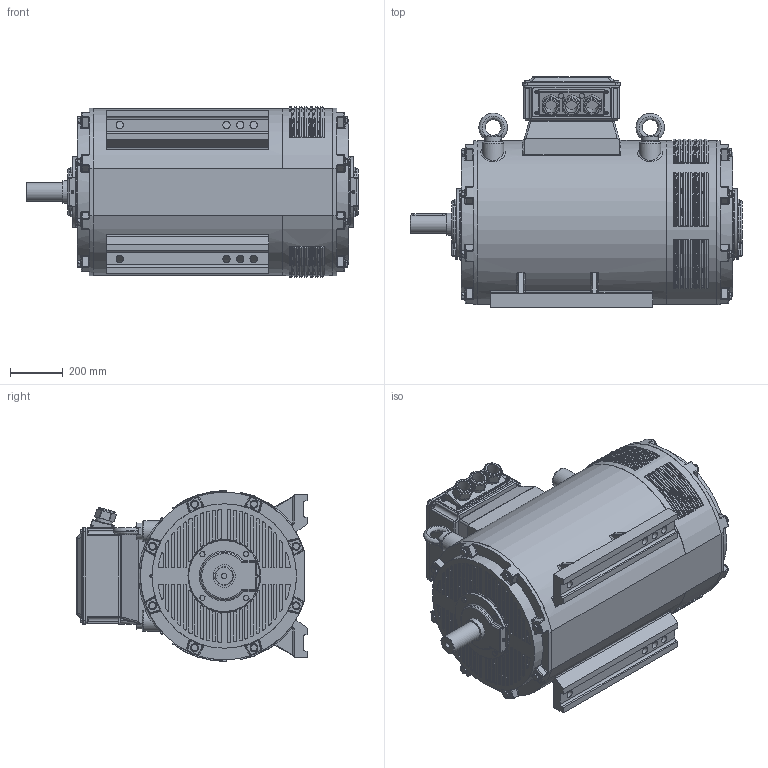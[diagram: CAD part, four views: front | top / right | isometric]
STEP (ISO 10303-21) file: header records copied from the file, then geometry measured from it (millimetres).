
FILE_DESCRIPTION((''),'2;1');
FILE_NAME('U:\Inventor 2012\121 - OMEC MOTORS\1509 - OMD IP23\1509 - Gereed\IP23 step bestanden IE1_IE2\01-IP23-Cast Iron-IE1_IE2-315A B3-2.stp','2016-01-27T11:22:11',('Freek'),(''),'Autodesk Inventor 2012','Autodesk Inventor 2012','');
FILE_SCHEMA(('AUTOMOTIVE_DESIGN { 1 0 10303 214 1 1 1 1 }'));
Length unit declared in the file: millimetre
Products named in the file (1): 1509-069
Bounding box: 1260 x 875 x 648.34 mm (x, y, z)
Volume: 362995643 mm3; surface area: 6449390.8 mm2
Topology: 9 solids, 16 shells, 3363 faces, 8304 edges, 5237 vertices
Faces by surface type: cylinder 1241, plane 1178, cone 351, bspline 240, torus 205, sphere 148
Full cylindrical faces by diameter (mm): 8 x4, 9 x4, 9.188 x4, 10 x5, 12 x8, 13 x4, 15.4 x4, 16 x16, 16.5 x16, 17 x16, 17.4 x8, 20 x3, 22.5 x16, 28 x8, 30 x16, 48 x3, 63 x3, 66 x3, 70 x1, 80 x4, 85 x1, 270 x2, 548 x2
Entity records: 111199 total; most frequent: CARTESIAN_POINT 30089, DIRECTION 16492, ORIENTED_EDGE 16076, EDGE_CURVE 8038, AXIS2_PLACEMENT_3D 6607, VERTEX_POINT 5176, EDGE_LOOP 3904, CIRCLE 3367
